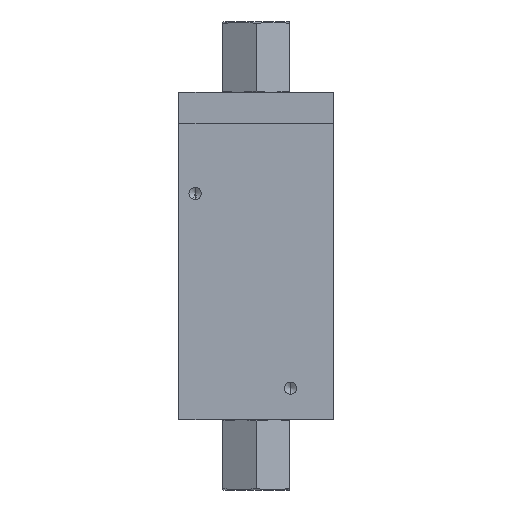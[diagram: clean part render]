
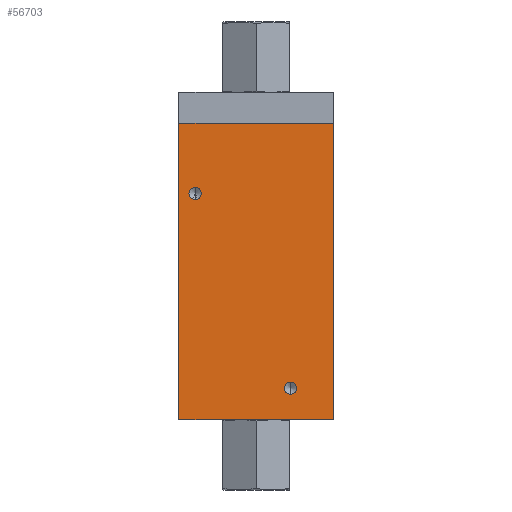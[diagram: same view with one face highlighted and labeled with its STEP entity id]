
A CAD part, front view. The second image highlights one B-rep face of the part: STEP entity #56703.
In plain terms, the highlighted planar face has unit normal (0, -1, 0).
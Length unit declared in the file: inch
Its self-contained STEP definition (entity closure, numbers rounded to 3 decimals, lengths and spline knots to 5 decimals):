
#1820 = ORIENTED_EDGE ( 'NONE', *, *, #44666, .T. ) ;
#2223 = EDGE_CURVE ( 'NONE', #10504, #15676, #58196, .T. ) ;
#2533 = DIRECTION ( 'NONE',  ( 0., 0., 1. ) ) ;
#3639 = LINE ( 'NONE', #21340, #48714 ) ;
#4733 = EDGE_CURVE ( 'NONE', #49689, #33657, #37112, .T. ) ;
#5364 = LINE ( 'NONE', #68151, #68208 ) ;
#6713 = VERTEX_POINT ( 'NONE', #28196 ) ;
#8734 = DIRECTION ( 'NONE',  ( 0., -1., 0. ) ) ;
#10018 = DIRECTION ( 'NONE',  ( 0., 0., 1. ) ) ;
#10232 = ORIENTED_EDGE ( 'NONE', *, *, #16907, .T. ) ;
#10504 = VERTEX_POINT ( 'NONE', #68634 ) ;
#11705 = DIRECTION ( 'NONE',  ( 0., 0., -1. ) ) ;
#12195 = VERTEX_POINT ( 'NONE', #32072 ) ;
#13495 = FACE_BOUND ( 'NONE', #49811, .T. ) ;
#13708 = CARTESIAN_POINT ( 'NONE',  ( -5.76348, -2.871, 3.33867 ) ) ;
#13968 = LINE ( 'NONE', #49339, #72442 ) ;
#15014 = CARTESIAN_POINT ( 'NONE',  ( -5.07598, -2.871, 2.38987 ) ) ;
#15676 = VERTEX_POINT ( 'NONE', #13708 ) ;
#16907 = EDGE_CURVE ( 'NONE', #20245, #19766, #13968, .T. ) ;
#18394 = DIRECTION ( 'NONE',  ( 0., 0., 1. ) ) ;
#19766 = VERTEX_POINT ( 'NONE', #39267 ) ;
#20245 = VERTEX_POINT ( 'NONE', #24217 ) ;
#21340 = CARTESIAN_POINT ( 'NONE',  ( -5.07598, -2.871, 4.05637 ) ) ;
#21491 = ORIENTED_EDGE ( 'NONE', *, *, #2223, .T. ) ;
#22234 = DIRECTION ( 'NONE',  ( 0., 1., 0. ) ) ;
#24208 = ORIENTED_EDGE ( 'NONE', *, *, #70987, .F. ) ;
#24217 = CARTESIAN_POINT ( 'NONE',  ( -5.94548, -2.871, 0.72337 ) ) ;
#28196 = CARTESIAN_POINT ( 'NONE',  ( -5.94548, -2.871, 4.05637 ) ) ;
#29000 = CARTESIAN_POINT ( 'NONE',  ( -5.76348, -2.871, 3.26937 ) ) ;
#29484 = CIRCLE ( 'NONE', #75875, 0.0693 ) ;
#29788 = LINE ( 'NONE', #47054, #59257 ) ;
#30335 = DIRECTION ( 'NONE',  ( 0., 1., 0. ) ) ;
#30447 = CARTESIAN_POINT ( 'NONE',  ( -4.68848, -2.871, 1.14667 ) ) ;
#31271 = ORIENTED_EDGE ( 'NONE', *, *, #44052, .T. ) ;
#31488 = CARTESIAN_POINT ( 'NONE',  ( -5.76348, -2.871, 3.26937 ) ) ;
#32072 = CARTESIAN_POINT ( 'NONE',  ( -4.20648, -2.871, 4.05637 ) ) ;
#33370 = ORIENTED_EDGE ( 'NONE', *, *, #65579, .F. ) ;
#33657 = VERTEX_POINT ( 'NONE', #30447 ) ;
#37112 = CIRCLE ( 'NONE', #40924, 0.0693 ) ;
#38261 = DIRECTION ( 'NONE',  ( 1., 0., 0. ) ) ;
#38955 = EDGE_LOOP ( 'NONE', ( #31271, #21491 ) ) ;
#39267 = CARTESIAN_POINT ( 'NONE',  ( -4.20648, -2.871, 0.72337 ) ) ;
#40663 = DIRECTION ( 'NONE',  ( 0., 1., 0. ) ) ;
#40690 = CARTESIAN_POINT ( 'NONE',  ( -4.68848, -2.871, 1.07737 ) ) ;
#40924 = AXIS2_PLACEMENT_3D ( 'NONE', #40690, #22234, #57992 ) ;
#43306 = EDGE_CURVE ( 'NONE', #20245, #6713, #5364, .T. ) ;
#44052 = EDGE_CURVE ( 'NONE', #15676, #10504, #60789, .T. ) ;
#44482 = FACE_BOUND ( 'NONE', #38955, .T. ) ;
#44666 = EDGE_CURVE ( 'NONE', #33657, #49689, #29484, .T. ) ;
#45605 = AXIS2_PLACEMENT_3D ( 'NONE', #29000, #65528, #18394 ) ;
#47054 = CARTESIAN_POINT ( 'NONE',  ( -4.20648, -2.871, 2.38987 ) ) ;
#48714 = VECTOR ( 'NONE', #38261, 39.37008 ) ;
#48856 = ORIENTED_EDGE ( 'NONE', *, *, #43306, .F. ) ;
#49339 = CARTESIAN_POINT ( 'NONE',  ( -5.07598, -2.871, 0.72337 ) ) ;
#49512 = AXIS2_PLACEMENT_3D ( 'NONE', #31488, #30335, #55840 ) ;
#49627 = FACE_OUTER_BOUND ( 'NONE', #51853, .T. ) ;
#49689 = VERTEX_POINT ( 'NONE', #66231 ) ;
#49811 = EDGE_LOOP ( 'NONE', ( #1820, #50310 ) ) ;
#50310 = ORIENTED_EDGE ( 'NONE', *, *, #4733, .T. ) ;
#50770 = DIRECTION ( 'NONE',  ( 0., 0., -1. ) ) ;
#51853 = EDGE_LOOP ( 'NONE', ( #10232, #24208, #33370, #48856 ) ) ;
#53008 = AXIS2_PLACEMENT_3D ( 'NONE', #15014, #8734, #50770 ) ;
#55840 = DIRECTION ( 'NONE',  ( 0., 0., 1. ) ) ;
#56703 = ADVANCED_FACE ( 'NONE', ( #49627, #44482, #13495 ), #61802, .T. ) ;
#57992 = DIRECTION ( 'NONE',  ( 0., 0., 1. ) ) ;
#58196 = CIRCLE ( 'NONE', #45605, 0.0693 ) ;
#59257 = VECTOR ( 'NONE', #11705, 39.37008 ) ;
#60789 = CIRCLE ( 'NONE', #49512, 0.0693 ) ;
#61802 = PLANE ( 'NONE',  #53008 ) ;
#61895 = DIRECTION ( 'NONE',  ( 1., 0., 0. ) ) ;
#63843 = CARTESIAN_POINT ( 'NONE',  ( -4.68848, -2.871, 1.07737 ) ) ;
#65528 = DIRECTION ( 'NONE',  ( 0., 1., 0. ) ) ;
#65579 = EDGE_CURVE ( 'NONE', #6713, #12195, #3639, .T. ) ;
#66231 = CARTESIAN_POINT ( 'NONE',  ( -4.68848, -2.871, 1.00807 ) ) ;
#68151 = CARTESIAN_POINT ( 'NONE',  ( -5.94548, -2.871, 2.38987 ) ) ;
#68208 = VECTOR ( 'NONE', #2533, 39.37008 ) ;
#68634 = CARTESIAN_POINT ( 'NONE',  ( -5.76348, -2.871, 3.20007 ) ) ;
#70987 = EDGE_CURVE ( 'NONE', #12195, #19766, #29788, .T. ) ;
#72442 = VECTOR ( 'NONE', #61895, 39.37008 ) ;
#75875 = AXIS2_PLACEMENT_3D ( 'NONE', #63843, #40663, #10018 ) ;
